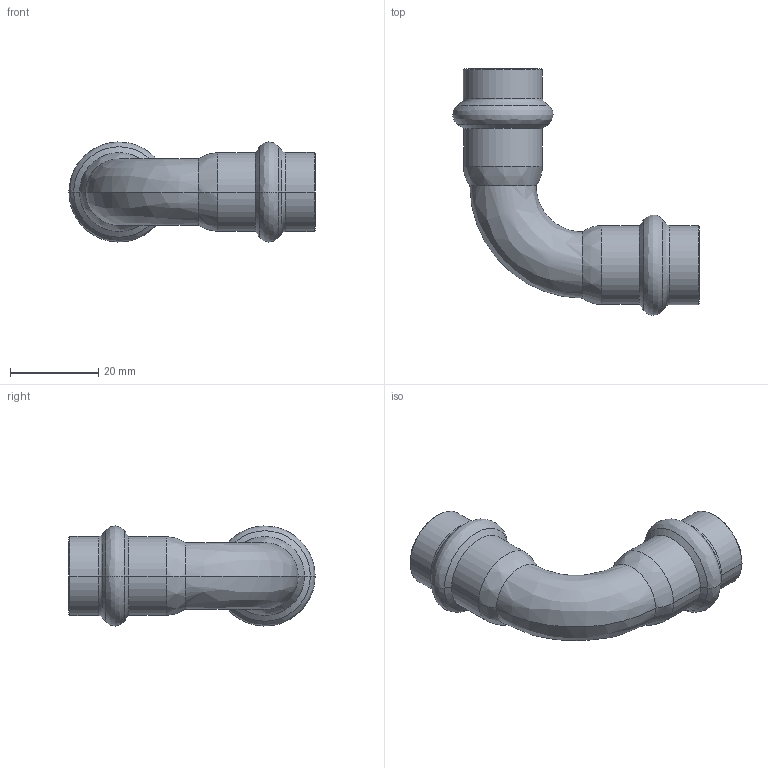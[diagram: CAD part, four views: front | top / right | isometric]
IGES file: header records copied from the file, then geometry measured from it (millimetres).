
Start section: Elysium IGES Interface
Global section: file name: C:\Users\Wallenburg\Desktop\3d modellen sudo\S-Pr VP\SP6002V\6002VW15.igs; native system: CoCreate Modeling 17.00A  17-Jun-2010; preprocessor: CoCreate IGES_3D V2.2; author: Unknown; organization: Unknown; date: 20130110.152142; units: millimetre
Bounding box: 55.77 x 55.77 x 22.67 mm (x, y, z)
Volume: 4190.3 mm3; surface area: 9640.9 mm2
Topology: 1 solids, 3 shells, 76 faces, 152 edges, 84 vertices
Faces by surface type: bspline 76
